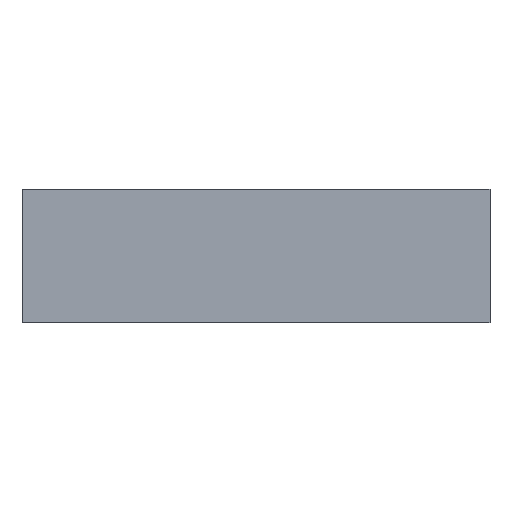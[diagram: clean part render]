
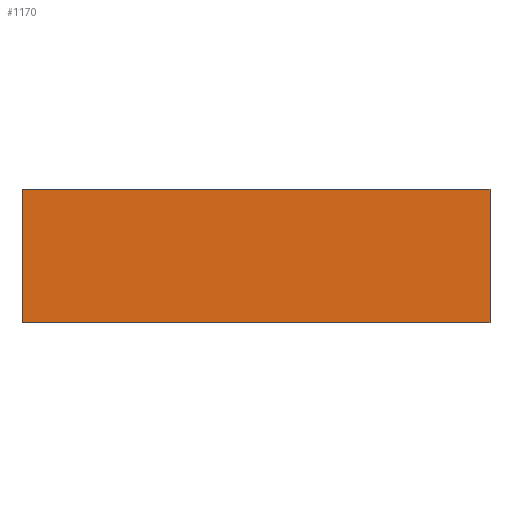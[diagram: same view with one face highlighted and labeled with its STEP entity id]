
A CAD part, left-side view. The second image highlights one B-rep face of the part: STEP entity #1170.
In plain terms, the highlighted planar face has unit normal (-1, 0, 0).
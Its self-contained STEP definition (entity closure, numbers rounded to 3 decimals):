
#74 = DIRECTION ( 'NONE',  ( 0., 0., -1. ) ) ;
#103 = EDGE_CURVE ( 'NONE', #620, #218, #331, .T. ) ;
#167 = CARTESIAN_POINT ( 'NONE',  ( 0., -30., 17.167 ) ) ;
#218 = VERTEX_POINT ( 'NONE', #960 ) ;
#221 = AXIS2_PLACEMENT_3D ( 'NONE', #1155, #554, #350 ) ;
#235 = ORIENTED_EDGE ( 'NONE', *, *, #103, .F. ) ;
#255 = EDGE_LOOP ( 'NONE', ( #235, #944, #1063, #849 ) ) ;
#285 = DIRECTION ( 'NONE',  ( 0., 0., -1. ) ) ;
#331 = LINE ( 'NONE', #739, #631 ) ;
#350 = DIRECTION ( 'NONE',  ( 0., 0., 1. ) ) ;
#379 = LINE ( 'NONE', #790, #1100 ) ;
#407 = DIRECTION ( 'NONE',  ( 0., 1., 0. ) ) ;
#441 = EDGE_CURVE ( 'NONE', #1172, #620, #478, .T. ) ;
#451 = FACE_OUTER_BOUND ( 'NONE', #255, .T. ) ;
#454 = EDGE_CURVE ( 'NONE', #1172, #522, #948, .T. ) ;
#473 = CARTESIAN_POINT ( 'NONE',  ( 0., 0., 17.167 ) ) ;
#478 = LINE ( 'NONE', #963, #820 ) ;
#483 = CARTESIAN_POINT ( 'NONE',  ( 0., -30., 0. ) ) ;
#522 = VERTEX_POINT ( 'NONE', #1142 ) ;
#554 = DIRECTION ( 'NONE',  ( -1., 0., 0. ) ) ;
#620 = VERTEX_POINT ( 'NONE', #483 ) ;
#631 = VECTOR ( 'NONE', #407, 1000. ) ;
#658 = EDGE_CURVE ( 'NONE', #522, #218, #379, .T. ) ;
#739 = CARTESIAN_POINT ( 'NONE',  ( 0., 0., 0. ) ) ;
#776 = DIRECTION ( 'NONE',  ( 0., 1., 0. ) ) ;
#790 = CARTESIAN_POINT ( 'NONE',  ( 0., 30., 17.167 ) ) ;
#820 = VECTOR ( 'NONE', #74, 1000. ) ;
#849 = ORIENTED_EDGE ( 'NONE', *, *, #658, .T. ) ;
#868 = PLANE ( 'NONE',  #221 ) ;
#944 = ORIENTED_EDGE ( 'NONE', *, *, #441, .F. ) ;
#948 = LINE ( 'NONE', #473, #999 ) ;
#960 = CARTESIAN_POINT ( 'NONE',  ( 0., 30., 0. ) ) ;
#963 = CARTESIAN_POINT ( 'NONE',  ( 0., -30., 17.167 ) ) ;
#999 = VECTOR ( 'NONE', #776, 1000. ) ;
#1063 = ORIENTED_EDGE ( 'NONE', *, *, #454, .T. ) ;
#1100 = VECTOR ( 'NONE', #285, 1000. ) ;
#1142 = CARTESIAN_POINT ( 'NONE',  ( 0., 30., 17.167 ) ) ;
#1155 = CARTESIAN_POINT ( 'NONE',  ( 0., 0., 17.167 ) ) ;
#1170 = ADVANCED_FACE ( 'NONE', ( #451 ), #868, .T. ) ;
#1172 = VERTEX_POINT ( 'NONE', #167 ) ;
